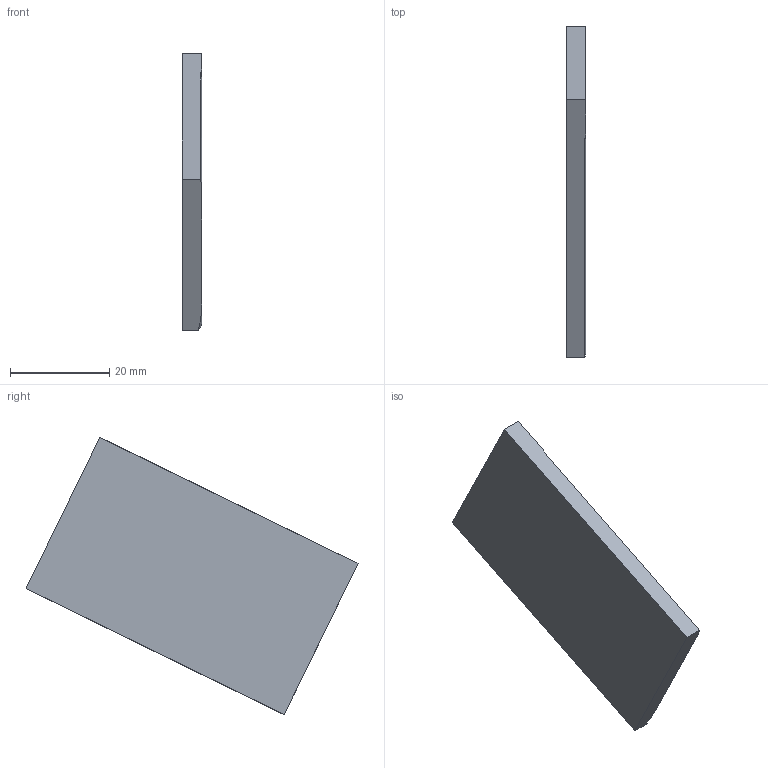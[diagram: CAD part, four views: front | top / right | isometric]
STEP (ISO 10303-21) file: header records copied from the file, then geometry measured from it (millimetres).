
FILE_DESCRIPTION((''),'2;1');
FILE_NAME('C:\Users\JamesRPatrick\Documents\Autodesk\PM422\STEP2.0\PM422FrameCap2.stp','2015-08-22T18:58:37',('JamesRPatrick'),(''),'Autodesk Inventor 2012','Autodesk Inventor 2012','');
FILE_SCHEMA(('AUTOMOTIVE_DESIGN { 1 0 10303 214 1 1 1 1 }'));
Length unit declared in the file: millimetre
Products named in the file (1): PM422FrameCap2
Bounding box: 4 x 67.03 x 55.98 mm (x, y, z)
Volume: 7875.3 mm3; surface area: 4663.7 mm2
Topology: 1 solids, 1 shells, 11 faces, 27 edges, 17 vertices
Faces by surface type: plane 6, bspline 3, cylinder 1, torus 1
Entity records: 421 total; most frequent: CARTESIAN_POINT 168, ORIENTED_EDGE 52, DIRECTION 35, EDGE_CURVE 26, VERTEX_POINT 17, VECTOR 13, LINE 13, AXIS2_PLACEMENT_3D 11
